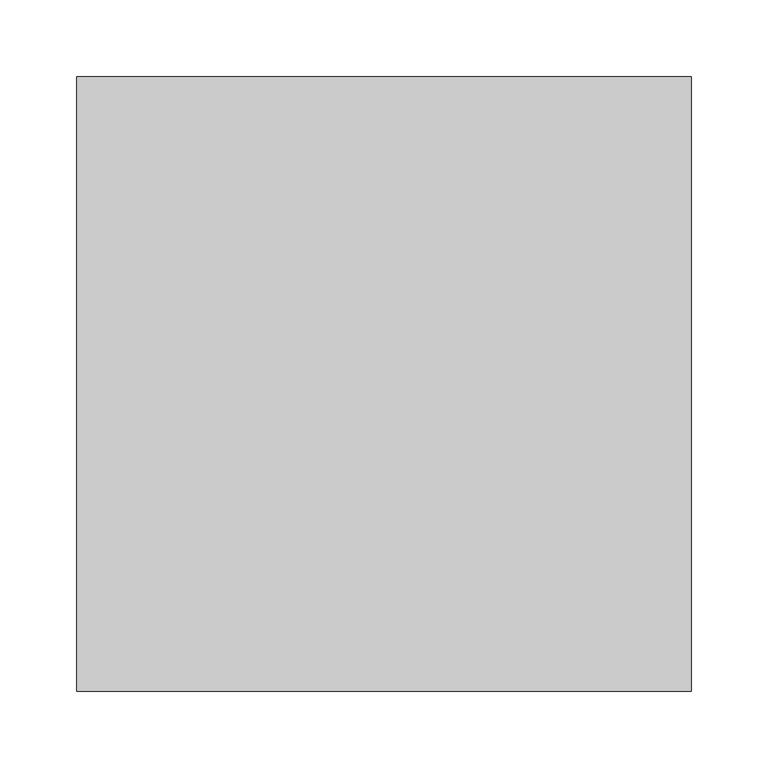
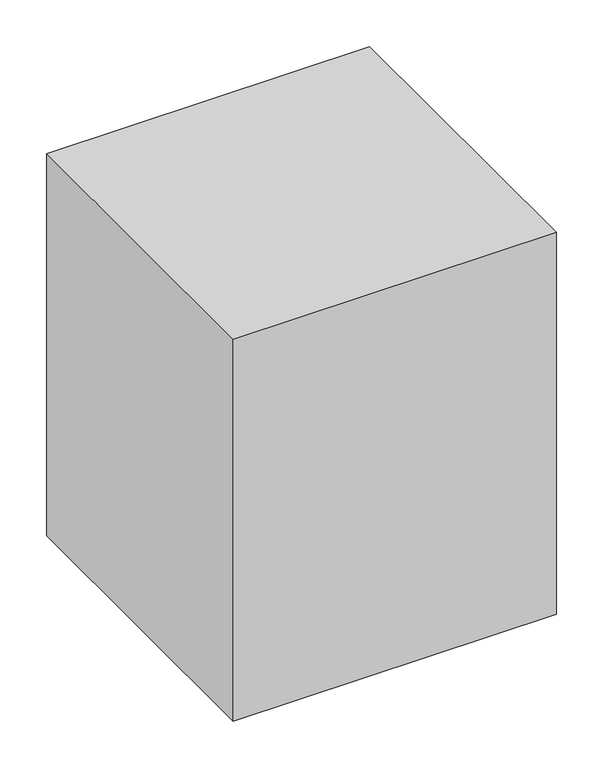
"""IFC4 building model written with IfcOpenShell, lengths in millimetres: furniture geometry, Fu_тумба прикроватная_LEG : 400х400."""

from ifc_helpers import new_model, si_unit, origin, origin_with_axes, place, context, project, spatial, polyline, outline, extrude, source, transform, mapped, element, save


def furniture_175c6dcd(model_context):
    return source(origin(), model_context, "Body", "SweptSolid", [
        extrude(outline(polyline([(200.0, -200.0), (-200.0, -200.0), (-200.0, 200.0), (200.0, 200.0), (200.0, -200.0)])), origin_with_axes(), (0.0, 0.0, 1.0), 500.0),
    ])


if __name__ == "__main__":
    model = new_model("IFC4")
    model_context = context("Model", 3, world=origin())
    ifc_project = project(units=[si_unit("LENGTHUNIT", "METRE", prefix="MILLI")], contexts=[model_context])
    site = spatial("IfcSite", under=ifc_project)
    building = spatial("IfcBuilding", under=site)
    placement = place(None, origin())
    furniture_shape = furniture_175c6dcd(model_context)
    element("IfcFurniture", 1, ObjectType="Fu_тумба прикроватная_LEG : 400х400", at=placement, inside=building, context=model_context, shape_type="MappedRepresentation", body=[
        mapped(furniture_shape, transform((0.0, 0.0, 0.0), x_axis=(1.0, 0.0, 0.0), y_axis=(0.0, 1.0, 0.0), z_axis=(0.0, 0.0, 1.0))),
    ])
    save(model, "model.ifc")
